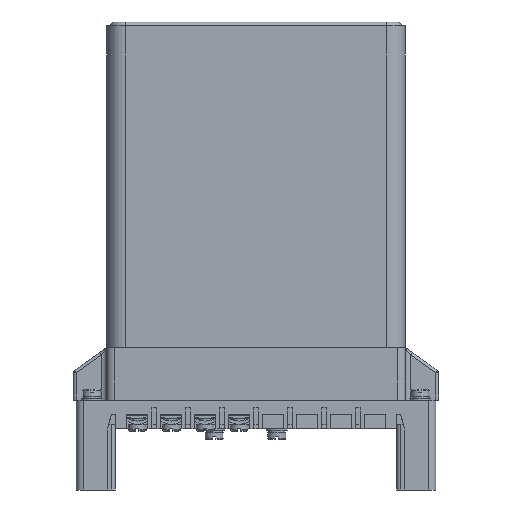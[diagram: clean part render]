
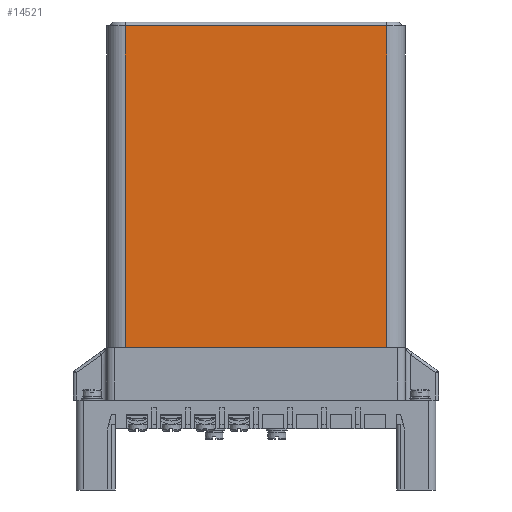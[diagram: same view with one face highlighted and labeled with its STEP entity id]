
A CAD part, left-side view. The second image highlights one B-rep face of the part: STEP entity #14521.
In plain terms, the highlighted planar face has unit normal (-1, 0, 0).
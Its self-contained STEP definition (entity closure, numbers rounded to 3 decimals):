
#14521=ADVANCED_FACE('',(#48110),#48112,.T.);
#48110=FACE_BOUND('',#48111,.T.);
#48111=EDGE_LOOP('',(#74517,#74518,#74519,#74520));
#48112=PLANE('',#48113);
#48113=AXIS2_PLACEMENT_3D('',#48114,#48115,#48116);
#48114=CARTESIAN_POINT('',(-32.15,50.15,31.5));
#48115=DIRECTION('',(-1.,0.,0.));
#48116=DIRECTION('',(0.,-1.,0.));
#74517=ORIENTED_EDGE('',*,*,#88791,.T.);
#74518=ORIENTED_EDGE('',*,*,#89322,.T.);
#74519=ORIENTED_EDGE('',*,*,#89323,.F.);
#74520=ORIENTED_EDGE('',*,*,#89324,.F.);
#88791=EDGE_CURVE('',#101304,#101302,#101305,.T.);
#89322=EDGE_CURVE('',#101302,#102197,#102199,.T.);
#89323=EDGE_CURVE('',#102200,#102197,#102201,.T.);
#89324=EDGE_CURVE('',#101304,#102200,#102202,.T.);
#101302=VERTEX_POINT('',#126839);
#101304=VERTEX_POINT('',#126844);
#101305=LINE('',#126845,#126846);
#102197=VERTEX_POINT('',#129530);
#102199=LINE('',#129535,#129536);
#102200=VERTEX_POINT('',#129538);
#102201=LINE('',#129539,#129540);
#102202=LINE('',#129542,#129543);
#126839=CARTESIAN_POINT('',(-32.15,-50.15,31.5));
#126844=CARTESIAN_POINT('',(-32.15,50.15,31.5));
#126845=CARTESIAN_POINT('',(-32.15,50.15,31.5));
#126846=VECTOR('',#126847,1.);
#126847=DIRECTION('',(0.,-1.,0.));
#129530=CARTESIAN_POINT('',(-32.15,-50.15,155.));
#129535=CARTESIAN_POINT('',(-32.15,-50.15,31.5));
#129536=VECTOR('',#129537,1.);
#129537=DIRECTION('',(0.,0.,1.));
#129538=CARTESIAN_POINT('',(-32.15,50.15,155.));
#129539=CARTESIAN_POINT('',(-32.15,50.15,155.));
#129540=VECTOR('',#129541,1.);
#129541=DIRECTION('',(0.,-1.,0.));
#129542=CARTESIAN_POINT('',(-32.15,50.15,31.5));
#129543=VECTOR('',#129544,1.);
#129544=DIRECTION('',(0.,0.,1.));
